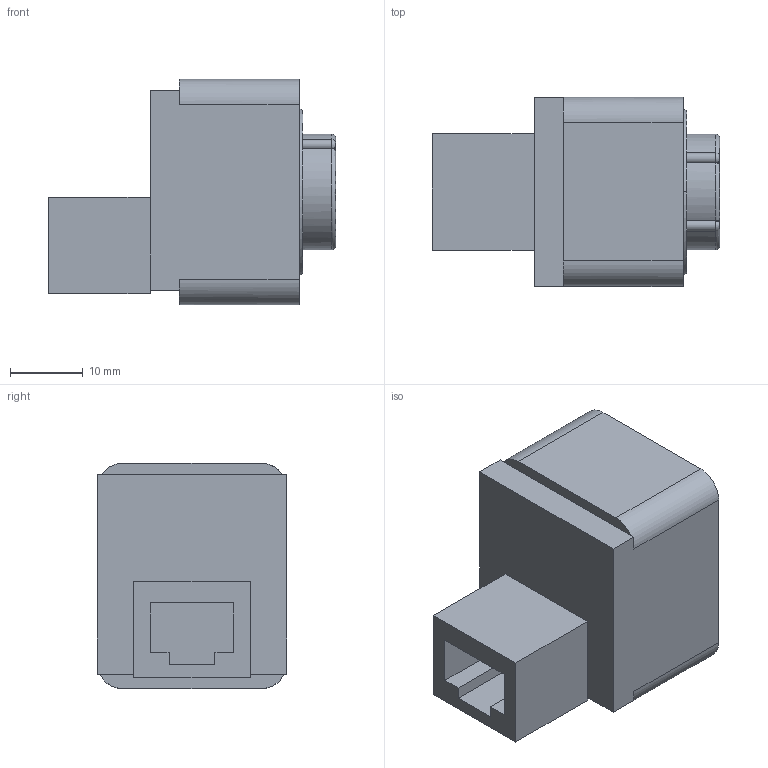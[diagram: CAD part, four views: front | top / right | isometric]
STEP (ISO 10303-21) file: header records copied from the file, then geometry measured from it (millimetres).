
FILE_DESCRIPTION(/* description */ (''),/* implementation_level */ '2;1');
FILE_NAME(/* name */ '9.electronics#9.4#la-dwp-2',/* time_stamp */ '2014-12-01T20:18:51+01:00',/* author */ (''),/* organization */ (''),/* preprocessor_version */ 'ST-DEVELOPER v14',/* originating_system */ '',/* authorisation */ '');
FILE_SCHEMA (('AUTOMOTIVE_DESIGN'));
Length unit declared in the file: millimetre
Products named in the file (1): Document
Bounding box: 39.5 x 26 x 31 mm (x, y, z)
Volume: 15725.7 mm3; surface area: 7380.8 mm2
Topology: 1 solids, 1 shells, 71 faces, 176 edges, 110 vertices
Faces by surface type: plane 47, bspline 24
Entity records: 4323 total; most frequent: CARTESIAN_POINT 2011, B_SPLINE_CURVE_WITH_KNOTS 424, ORIENTED_EDGE 344, PCURVE 344, DEFINITIONAL_REPRESENTATION 344, SURFACE_CURVE 172, EDGE_CURVE 172, VERTEX_POINT 110
